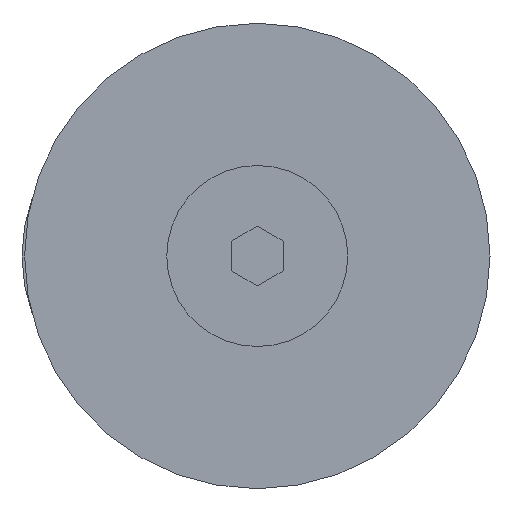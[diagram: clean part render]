
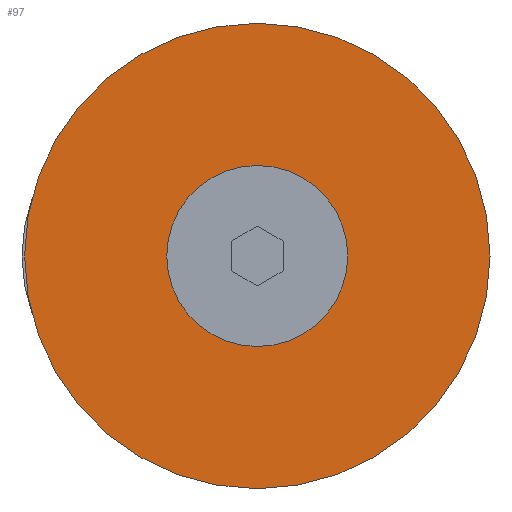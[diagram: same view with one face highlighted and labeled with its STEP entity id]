
A CAD part, front view. The second image highlights one B-rep face of the part: STEP entity #97.
In plain terms, the highlighted planar face has unit normal (0, -1, 0).
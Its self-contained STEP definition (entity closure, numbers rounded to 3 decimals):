
#97=ADVANCED_FACE('',(#173,#174),#175,.F.);
#173=FACE_OUTER_BOUND('',#281,.T.);
#174=FACE_BOUND('',#282,.T.);
#175=PLANE('',#283);
#281=EDGE_LOOP('',(#508,#509));
#282=EDGE_LOOP('',(#510,#511));
#283=AXIS2_PLACEMENT_3D('',#512,#513,#514);
#508=ORIENTED_EDGE('',*,*,#734,.T.);
#509=ORIENTED_EDGE('',*,*,#780,.T.);
#510=ORIENTED_EDGE('',*,*,#728,.F.);
#511=ORIENTED_EDGE('',*,*,#781,.F.);
#512=CARTESIAN_POINT('',(-6.4,-5.0,0.0));
#513=DIRECTION('',(-0.0,1.0,0.0));
#514=DIRECTION('',(1.0,0.0,0.0));
#728=EDGE_CURVE('',#850,#851,#852,.T.);
#734=EDGE_CURVE('',#863,#861,#864,.T.);
#780=EDGE_CURVE('',#861,#863,#938,.T.);
#781=EDGE_CURVE('',#851,#850,#939,.T.);
#850=VERTEX_POINT('',#1042);
#851=VERTEX_POINT('',#1043);
#852=CIRCLE('',#1044,3.5);
#861=VERTEX_POINT('',#1055);
#863=VERTEX_POINT('',#1058);
#864=CIRCLE('',#1059,9.0);
#938=CIRCLE('',#1166,9.0);
#939=CIRCLE('',#1167,3.5);
#1042=CARTESIAN_POINT('',(2.6,-5.0,-3.5));
#1043=CARTESIAN_POINT('',(2.6,-5.0,3.5));
#1044=AXIS2_PLACEMENT_3D('',#1314,#1315,#1316);
#1055=CARTESIAN_POINT('',(2.6,-5.0,9.0));
#1058=CARTESIAN_POINT('',(2.6,-5.0,-9.0));
#1059=AXIS2_PLACEMENT_3D('',#1326,#1327,#1328);
#1166=AXIS2_PLACEMENT_3D('',#1398,#1399,#1400);
#1167=AXIS2_PLACEMENT_3D('',#1401,#1402,#1403);
#1314=CARTESIAN_POINT('',(2.6,-5.0,0.0));
#1315=DIRECTION('',(0.0,-1.0,0.0));
#1316=DIRECTION('',(0.0,0.0,-1.0));
#1326=CARTESIAN_POINT('',(2.6,-5.0,0.0));
#1327=DIRECTION('',(0.0,-1.0,0.0));
#1328=DIRECTION('',(0.0,0.0,-1.0));
#1398=CARTESIAN_POINT('',(2.6,-5.0,0.0));
#1399=DIRECTION('',(0.0,-1.0,0.0));
#1400=DIRECTION('',(0.0,0.0,-1.0));
#1401=CARTESIAN_POINT('',(2.6,-5.0,0.0));
#1402=DIRECTION('',(0.0,-1.0,0.0));
#1403=DIRECTION('',(0.0,0.0,-1.0));
